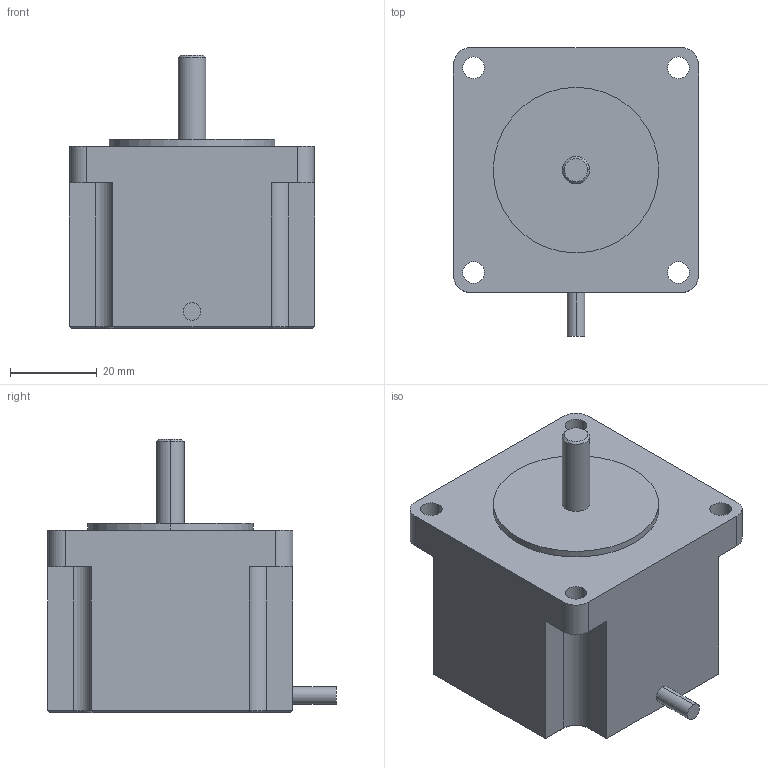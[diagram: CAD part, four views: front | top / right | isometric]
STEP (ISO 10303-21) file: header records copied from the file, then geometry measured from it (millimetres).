
FILE_DESCRIPTION (( 'STEP AP214' ), '1' );
FILE_NAME ('3S57Q-04042.STEP', '2021-03-23T07:21:34', ( '' ), ( '' ), 'SwSTEP 2.0', 'SolidWorks 2020', '' );
FILE_SCHEMA (( 'AUTOMOTIVE_DESIGN' ));
Length unit declared in the file: millimetre
Products named in the file (1): 3S57Q-04042
Bounding box: 56.4 x 66.4 x 63 mm (x, y, z)
Volume: 122375.5 mm3; surface area: 16524.1 mm2
Topology: 1 solids, 1 shells, 61 faces, 150 edges, 94 vertices
Faces by surface type: plane 33, cylinder 22, cone 6
Entity records: 1840 total; most frequent: DIRECTION 324, CARTESIAN_POINT 306, ORIENTED_EDGE 300, EDGE_CURVE 150, AXIS2_PLACEMENT_3D 112, LINE 100, VECTOR 100, VERTEX_POINT 94
